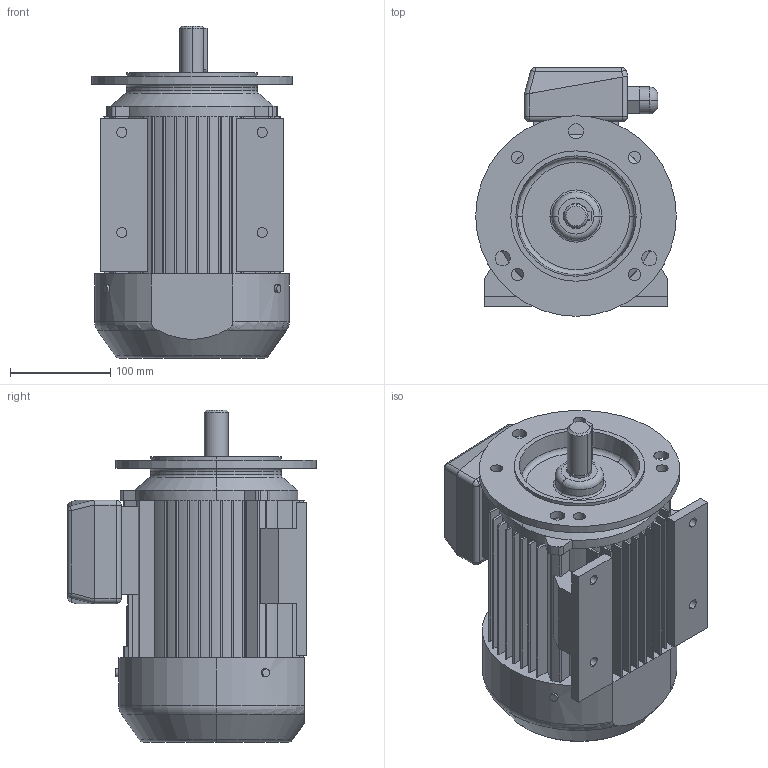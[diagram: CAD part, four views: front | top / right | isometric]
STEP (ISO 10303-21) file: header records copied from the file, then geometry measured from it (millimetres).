
FILE_DESCRIPTION (( 'STEP AP203' ), '1' );
FILE_NAME ('3SIEL90S2,4,6.STEP', '2016-02-08T11:53:17', ( 'Indukta' ), ( 'Celma Indukta S.A.' ), 'SwSTEP 2.0', 'SolidWorks 2003064', '' );
FILE_SCHEMA (( 'CONFIG_CONTROL_DESIGN' ));
Length unit declared in the file: millimetre
Products named in the file (1): 3SIEL90S2,4,6
Bounding box: 200 x 248 x 331 mm (x, y, z)
Volume: 7292298.4 mm3; surface area: 433881 mm2
Topology: 1 solids, 1 shells, 585 faces, 1578 edges, 1005 vertices
Faces by surface type: plane 295, cylinder 179, bspline 78, torus 17, cone 8, sphere 8
Entity records: 24546 total; most frequent: CARTESIAN_POINT 9963, ORIENTED_EDGE 3140, DIRECTION 2880, EDGE_CURVE 1570, VERTEX_POINT 1005, AXIS2_PLACEMENT_3D 978, LINE 924, VECTOR 924
